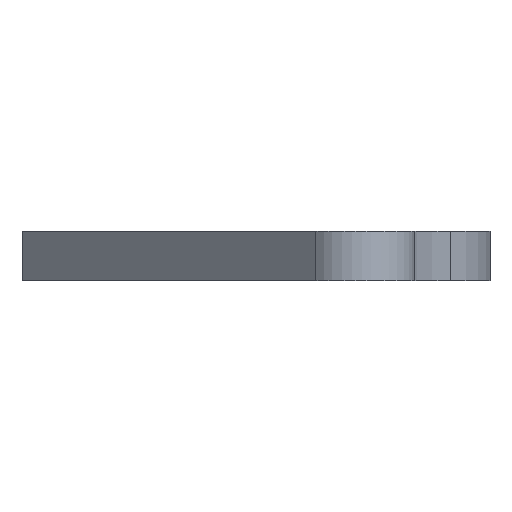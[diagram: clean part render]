
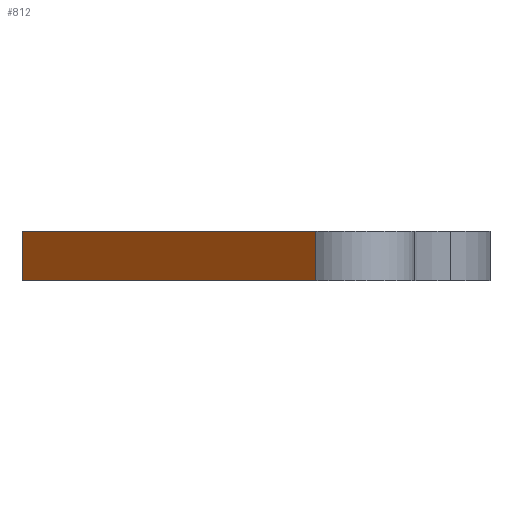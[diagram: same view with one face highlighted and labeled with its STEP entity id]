
A CAD part, front view. The second image highlights one B-rep face of the part: STEP entity #812.
In plain terms, the highlighted planar face has unit normal (-0.691, -0.723, 0).
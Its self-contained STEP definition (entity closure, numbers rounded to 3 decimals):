
#5 = CARTESIAN_POINT ( 'NONE',  ( -224.169, 46.305, 12.7 ) ) ;
#55 = VECTOR ( 'NONE', #890, 1000. ) ;
#73 = VERTEX_POINT ( 'NONE', #575 ) ;
#114 = EDGE_CURVE ( 'NONE', #619, #73, #1123, .T. ) ;
#180 = PLANE ( 'NONE',  #561 ) ;
#278 = DIRECTION ( 'NONE',  ( -0.691, -0.723, 0. ) ) ;
#279 = ORIENTED_EDGE ( 'NONE', *, *, #114, .T. ) ;
#299 = VECTOR ( 'NONE', #523, 1000. ) ;
#353 = DIRECTION ( 'NONE',  ( 0., 0., -1. ) ) ;
#357 = LINE ( 'NONE', #565, #704 ) ;
#377 = VERTEX_POINT ( 'NONE', #802 ) ;
#382 = VERTEX_POINT ( 'NONE', #391 ) ;
#391 = CARTESIAN_POINT ( 'NONE',  ( -148.53, -25.942, 12.7 ) ) ;
#429 = CARTESIAN_POINT ( 'NONE',  ( -224.169, 46.305, 12.7 ) ) ;
#441 = EDGE_CURVE ( 'NONE', #382, #619, #879, .T. ) ;
#486 = CARTESIAN_POINT ( 'NONE',  ( -224.169, 46.305, 0. ) ) ;
#512 = ORIENTED_EDGE ( 'NONE', *, *, #759, .F. ) ;
#523 = DIRECTION ( 'NONE',  ( -0.723, 0.691, 0. ) ) ;
#539 = EDGE_CURVE ( 'NONE', #377, #73, #850, .T. ) ;
#561 = AXIS2_PLACEMENT_3D ( 'NONE', #574, #278, #678 ) ;
#565 = CARTESIAN_POINT ( 'NONE',  ( -148.53, -25.942, 158.151 ) ) ;
#574 = CARTESIAN_POINT ( 'NONE',  ( -224.169, 46.305, 158.151 ) ) ;
#575 = CARTESIAN_POINT ( 'NONE',  ( -224.169, 46.305, 0. ) ) ;
#619 = VERTEX_POINT ( 'NONE', #429 ) ;
#630 = DIRECTION ( 'NONE',  ( 0., 0., -1. ) ) ;
#676 = ORIENTED_EDGE ( 'NONE', *, *, #441, .T. ) ;
#678 = DIRECTION ( 'NONE',  ( 0.723, -0.691, 0. ) ) ;
#704 = VECTOR ( 'NONE', #353, 1000. ) ;
#759 = EDGE_CURVE ( 'NONE', #382, #377, #357, .T. ) ;
#802 = CARTESIAN_POINT ( 'NONE',  ( -148.53, -25.942, 0. ) ) ;
#812 = ADVANCED_FACE ( 'NONE', ( #1153 ), #180, .T. ) ;
#850 = LINE ( 'NONE', #486, #299 ) ;
#879 = LINE ( 'NONE', #5, #55 ) ;
#880 = ORIENTED_EDGE ( 'NONE', *, *, #539, .F. ) ;
#890 = DIRECTION ( 'NONE',  ( -0.723, 0.691, 0. ) ) ;
#917 = CARTESIAN_POINT ( 'NONE',  ( -224.169, 46.305, 12.7 ) ) ;
#984 = EDGE_LOOP ( 'NONE', ( #512, #676, #279, #880 ) ) ;
#1123 = LINE ( 'NONE', #917, #1188 ) ;
#1153 = FACE_OUTER_BOUND ( 'NONE', #984, .T. ) ;
#1188 = VECTOR ( 'NONE', #630, 1000. ) ;
